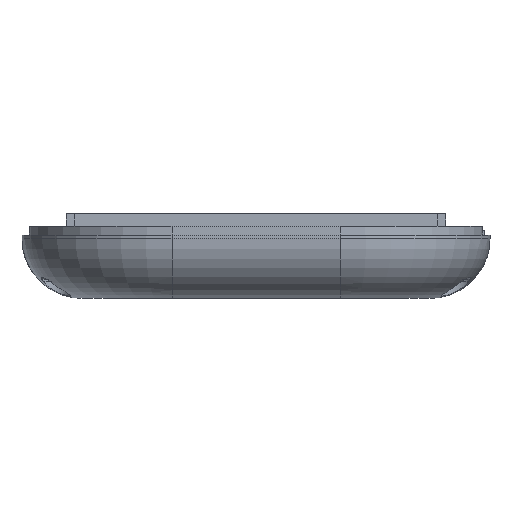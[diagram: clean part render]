
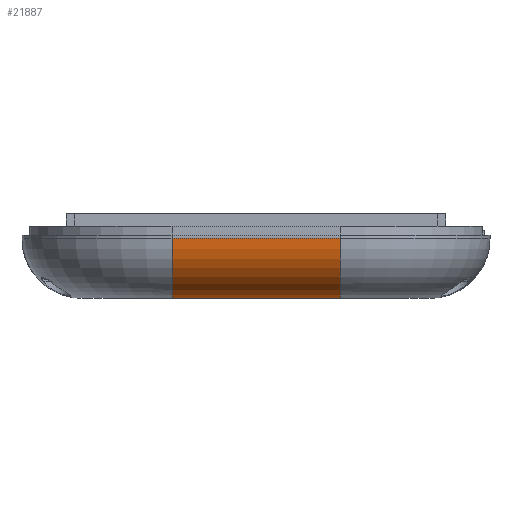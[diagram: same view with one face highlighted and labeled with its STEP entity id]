
A CAD part, front view. The second image highlights one B-rep face of the part: STEP entity #21887.
In plain terms, the highlighted cylindrical face has radius 10 mm (diameter 20 mm), a partial arc.
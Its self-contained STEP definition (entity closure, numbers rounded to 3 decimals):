
#1376=CYLINDRICAL_SURFACE('',#23366,10.);
#1695=FACE_OUTER_BOUND('',#2952,.T.);
#2952=EDGE_LOOP('',(#15740,#15741,#15742,#15743));
#4435=LINE('',#31597,#6438);
#4607=LINE('',#33617,#6610);
#6438=VECTOR('',#25568,1.);
#6610=VECTOR('',#25764,1.);
#8251=CIRCLE('',#23290,10.);
#8311=CIRCLE('',#23367,10.);
#9058=VERTEX_POINT('',#31018);
#9059=VERTEX_POINT('',#31020);
#9167=VERTEX_POINT('',#31595);
#9623=VERTEX_POINT('',#33615);
#11444=EDGE_CURVE('',#9059,#9058,#8251,.T.);
#11578=EDGE_CURVE('',#9058,#9167,#4435,.T.);
#12035=EDGE_CURVE('',#9623,#9167,#8311,.T.);
#12036=EDGE_CURVE('',#9623,#9059,#4607,.T.);
#15740=ORIENTED_EDGE('',*,*,#11444,.T.);
#15741=ORIENTED_EDGE('',*,*,#11578,.T.);
#15742=ORIENTED_EDGE('',*,*,#12035,.F.);
#15743=ORIENTED_EDGE('',*,*,#12036,.T.);
#21887=ADVANCED_FACE('',(#1695),#1376,.T.);
#23290=AXIS2_PLACEMENT_3D('',#31021,#25364,#25365);
#23366=AXIS2_PLACEMENT_3D('',#33614,#25760,#25761);
#23367=AXIS2_PLACEMENT_3D('',#33616,#25762,#25763);
#25364=DIRECTION('center_axis',(1.,0.,0.));
#25365=DIRECTION('ref_axis',(0.,-1.,0.));
#25568=DIRECTION('',(1.,0.,0.));
#25760=DIRECTION('center_axis',(-1.,0.,0.));
#25761=DIRECTION('ref_axis',(0.,-0.707,-0.707));
#25762=DIRECTION('center_axis',(1.,0.,0.));
#25763=DIRECTION('ref_axis',(0.,-1.,0.));
#25764=DIRECTION('',(-1.,0.,0.));
#31018=CARTESIAN_POINT('',(-14.,-65.,-24.));
#31020=CARTESIAN_POINT('',(-14.,-75.,-14.));
#31021=CARTESIAN_POINT('Origin',(-14.,-65.,-14.));
#31595=CARTESIAN_POINT('',(14.,-65.,-24.));
#31597=CARTESIAN_POINT('',(7.,-65.,-24.));
#33614=CARTESIAN_POINT('Origin',(7.,-65.,-14.));
#33615=CARTESIAN_POINT('',(14.,-75.,-14.));
#33616=CARTESIAN_POINT('Origin',(14.,-65.,-14.));
#33617=CARTESIAN_POINT('',(7.,-75.,-14.));
